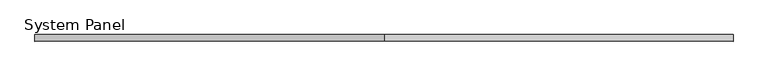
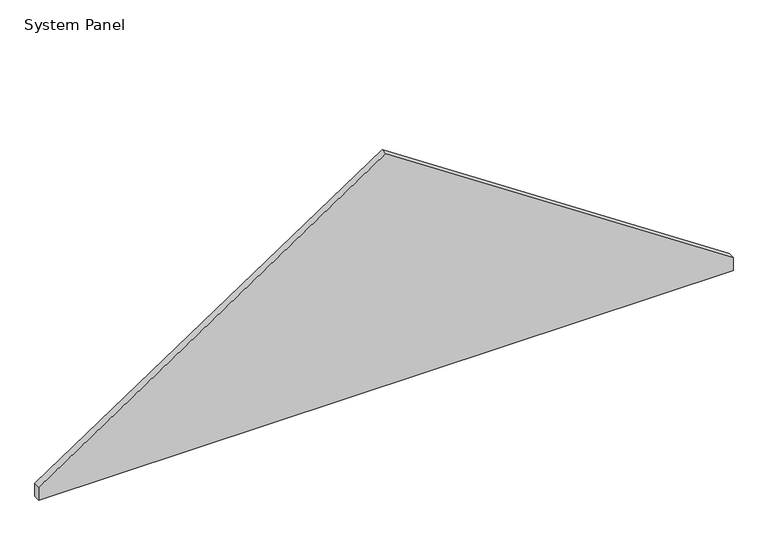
"""IFC4 building model written with IfcOpenShell, lengths in millimetres: plate geometry."""

from ifc_helpers import new_model, si_unit, frame, origin, place, context, project, spatial, polyline, outline, extrude, source, transform, mapped, element, save


def system_panel_225a6f4d(model_context):
    return source(origin(), model_context, "Body", "SweptSolid", [
        extrude(outline(polyline([(0.0, -2020.8875), (0.0, 2020.8875), (80.0688325, 2020.8875), (1427.3271659, 0.0), (80.0688325, -2020.8875), (0.0, -2020.8875)])), frame((0.0, -19.05, 0.0), z_axis=(0.0, 1.0, 0.0), x_axis=(0.0, 0.0, 1.0)), (0.0, 0.0, 1.0), 38.1),
    ])


if __name__ == "__main__":
    model = new_model("IFC4")
    model_context = context("Model", 3, world=origin())
    ifc_project = project(units=[si_unit("LENGTHUNIT", "METRE", prefix="MILLI")], contexts=[model_context])
    site = spatial("IfcSite", under=ifc_project)
    building = spatial("IfcBuilding", under=site)
    placement = place(None, origin())
    system_panel_shape = system_panel_225a6f4d(model_context)
    element("IfcPlate", 1, ObjectType="System Panel : 1/2\" Plywood & 1\" Rigid Ins.", at=placement, inside=building, context=model_context, shape_type="MappedRepresentation", body=[
        mapped(system_panel_shape, transform((0.0, 0.0, 0.0), x_axis=(1.0, 0.0, 0.0), y_axis=(0.0, 1.0, 0.0), z_axis=(0.0, 0.0, 1.0))),
    ])
    save(model, "model.ifc")
